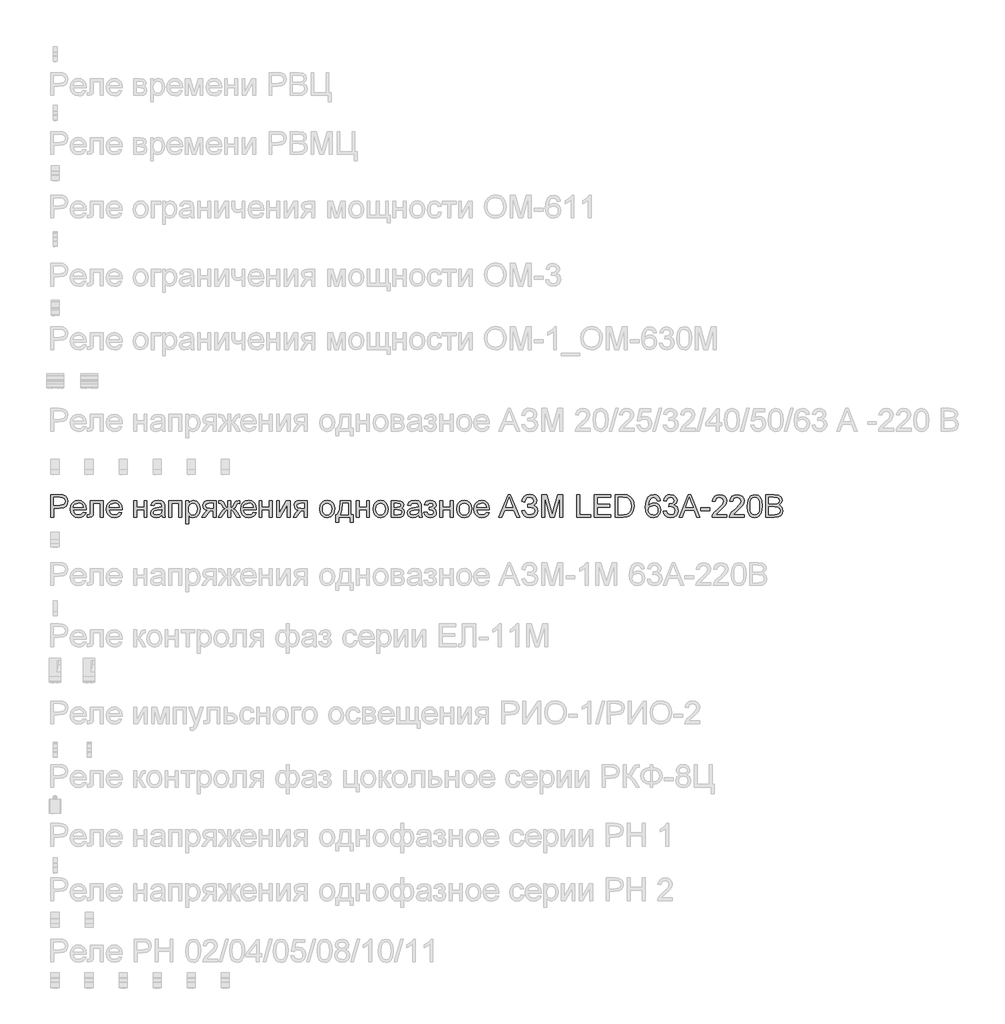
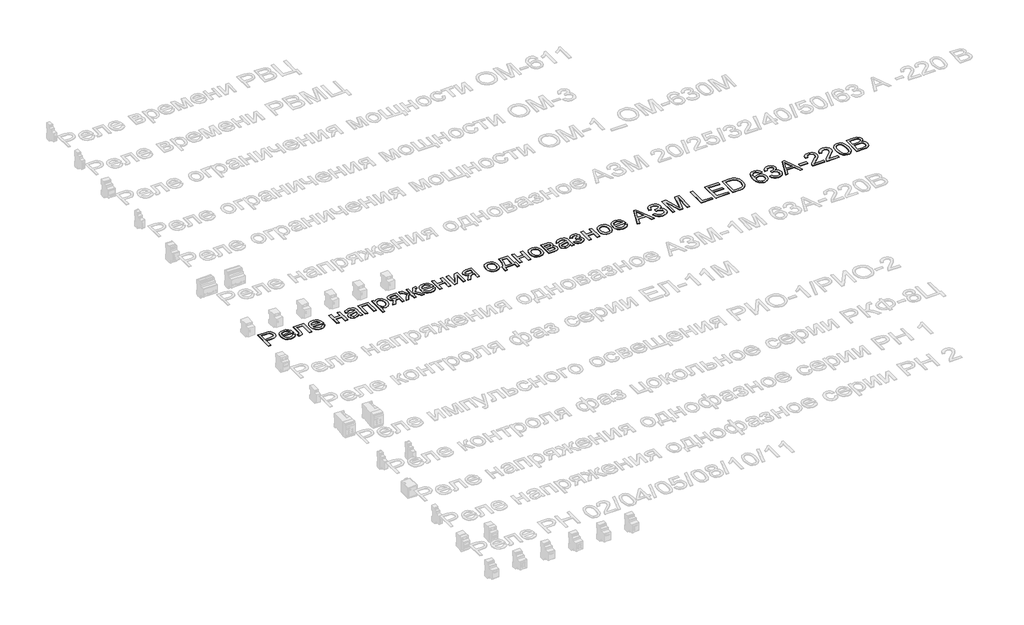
# One storey, part 12 of 34: 1 proxy.
"""IFC4 building model written with IfcOpenShell, lengths in millimetres."""

from ifc_helpers import new_model, si_unit, frame, origin, place, context, project, spatial, polyline, outline, extrude, element, save

model = new_model("IFC4")

# Units and contexts
model_context = context("Model", 3, world=origin())
ifc_project = project(units=[si_unit("LENGTHUNIT", "METRE", prefix="MILLI")], contexts=[model_context])

# Site, building, storey
site = spatial("IfcSite", under=ifc_project)
building = spatial("IfcBuilding", under=site)
storey = spatial("IfcBuildingStorey", under=building, Name="Этаж 01", Elevation=0.0)

# Proxy
placement = place(None, origin())
element("IfcBuildingElementProxy", 1, Name="Надпись на модели 1", ObjectType="Надпись на модели 1", at=placement, inside=storey, context=model_context, shape_type="SweptSolid", body=[
    extrude(outline(polyline([(-19039.0125911, 11896.235284), (-19039.0125911, 11996.6915941), (-19001.7829332, 11996.6915941), (-18986.7733478, 11995.735101), (-18974.5719283, 11991.0384742), (-18966.6624654, 11981.3263895), (-18963.6703585, 11967.6289165), (-18965.6906438, 11955.7892476), (-18971.7514996, 11945.9238788), (-18983.0853308, 11939.2652147), (-19000.9245418, 11937.04566), (-19026.4555523, 11937.04566), (-19026.4555523, 11896.235284), (-19039.0125911, 11896.235284)]), holes=[polyline([(-19026.4555523, 11949.6026988), (-19000.1887779, 11949.6026988), (-18981.6965762, 11954.2134864), (-18977.594692, 11959.7623732), (-18976.2273972, 11967.1874581), (-18979.4524961, 11977.5862559), (-18987.9260447, 11983.2761641), (-19000.4830834, 11984.1345554), (-19026.4555523, 11984.1345554), (-19026.4555523, 11949.6026988)])]), frame((0.0, 0.0, 40.0), z_axis=(0.0, 0.0, 1.0), x_axis=(1.0, 0.0, 0.0)), (0.0, 0.0, 1.0), 2.0),
    extrude(outline(polyline([(-18896.3234279, 11918.2101018), (-18884.0116438, 11916.640472), (-18888.4476875, 11907.3637143), (-18895.5263502, 11900.4291387), (-18905.0882164, 11896.1065253), (-18916.9738705, 11894.6656541), (-18931.7075445, 11897.1519233), (-18943.0444413, 11904.6107308), (-18950.2733225, 11916.5576985), (-18952.6829495, 11932.5084487), (-18950.248797, 11948.9956935), (-18942.9463394, 11961.3258717), (-18931.7627268, 11969.0146054), (-18917.6851091, 11971.5775166), (-18904.0458841, 11969.0207367), (-18893.14738, 11961.3503971), (-18886.0012722, 11949.0447444), (-18883.6192363, 11932.5820251), (-18883.6928127, 11929.1975108), (-18940.1259108, 11929.1975108), (-18937.9523413, 11919.7981258), (-18932.9031609, 11912.8880756), (-18925.6160317, 11908.6390386), (-18916.7286159, 11907.2226929), (-18904.4168318, 11909.8469178), (-18896.3234279, 11918.2101018)]), holes=[polyline([(-18940.1259108, 11941.7545495), (-18896.1762751, 11941.7545495), (-18901.2039957, 11953.1343659), (-18908.5248474, 11957.5489499), (-18917.73416, 11959.0204778), (-18933.1974665, 11954.323851), (-18938.0627059, 11948.8332123), (-18940.1259108, 11941.7545495)])]), frame((0.0, 0.0, 40.0), z_axis=(0.0, 0.0, 1.0), x_axis=(1.0, 0.0, 0.0)), (0.0, 0.0, 1.0), 2.0),
    extrude(outline(polyline([(-18864.7836782, 11970.0078868), (-18808.2770037, 11970.0078868), (-18808.2770037, 11896.3088604), (-18820.8340425, 11896.3088604), (-18820.8340425, 11957.450848), (-18852.2266394, 11957.450848), (-18852.2266394, 11922.2568038), (-18853.072768, 11906.0209451), (-18857.7203439, 11899.1660772), (-18868.7077528, 11896.235284), (-18878.9103468, 11896.8729461), (-18878.9103468, 11908.7923228), (-18873.294015, 11908.7923228), (-18867.6163695, 11909.564875), (-18865.3477639, 11912.0174216), (-18864.7836782, 11922.9680423), (-18864.7836782, 11970.0078868)])), frame((0.0, 0.0, 40.0), z_axis=(0.0, 0.0, 1.0), x_axis=(1.0, 0.0, 0.0)), (0.0, 0.0, 1.0), 2.0),
    extrude(outline(polyline([(-18737.7908134, 11918.2101018), (-18725.4790293, 11916.640472), (-18729.915073, 11907.3637143), (-18736.9937358, 11900.4291387), (-18746.555602, 11896.1065253), (-18758.4412561, 11894.6656541), (-18773.17493, 11897.1519233), (-18784.5118268, 11904.6107308), (-18791.740708, 11916.5576985), (-18794.1503351, 11932.5084487), (-18791.7161826, 11948.9956935), (-18784.4137249, 11961.3258717), (-18773.2301123, 11969.0146054), (-18759.1524946, 11971.5775166), (-18745.5132696, 11969.0207367), (-18734.6147655, 11961.3503971), (-18727.4686578, 11949.0447444), (-18725.0866219, 11932.5820251), (-18725.1601983, 11929.1975108), (-18781.5932963, 11929.1975108), (-18779.4197269, 11919.7981258), (-18774.3705465, 11912.8880756), (-18767.0834173, 11908.6390386), (-18758.1960014, 11907.2226929), (-18745.8842173, 11909.8469178), (-18737.7908134, 11918.2101018)]), holes=[polyline([(-18781.5932963, 11941.7545495), (-18737.6436606, 11941.7545495), (-18742.6713812, 11953.1343659), (-18749.9922329, 11957.5489499), (-18759.2015455, 11959.0204778), (-18774.6648521, 11954.323851), (-18779.5300915, 11948.8332123), (-18781.5932963, 11941.7545495)])]), frame((0.0, 0.0, 40.0), z_axis=(0.0, 0.0, 1.0), x_axis=(1.0, 0.0, 0.0)), (0.0, 0.0, 1.0), 2.0),
    extrude(outline(polyline([(-18673.2888369, 11970.0078868), (-18660.7317982, 11970.0078868), (-18660.7317982, 11941.7545495), (-18627.7695714, 11941.7545495), (-18627.7695714, 11970.0078868), (-18615.2125326, 11970.0078868), (-18615.2125326, 11896.235284), (-18627.7695714, 11896.235284), (-18627.7695714, 11929.1975108), (-18660.7317982, 11929.1975108), (-18660.7317982, 11896.235284), (-18673.2888369, 11896.235284), (-18673.2888369, 11970.0078868)])), frame((0.0, 0.0, 40.0), z_axis=(0.0, 0.0, 1.0), x_axis=(1.0, 0.0, 0.0)), (0.0, 0.0, 1.0), 2.0),
    extrude(outline(polyline([(-18549.2880791, 11905.6530631), (-18561.4649731, 11897.1427262), (-18574.9171914, 11894.6656541), (-18585.4110253, 11896.1555762), (-18593.1518757, 11900.6253425), (-18597.9251445, 11907.4127653), (-18599.5162342, 11915.8556571), (-18597.1127385, 11925.7884709), (-18590.7974309, 11932.998958), (-18582.0050512, 11937.1192364), (-18571.1402696, 11939.0076973), (-18549.3616555, 11943.3241794), (-18549.2880791, 11946.1200825), (-18552.7461699, 11955.3907088), (-18566.6275838, 11959.0204778), (-18579.3317754, 11956.6047194), (-18585.3895656, 11948.0330689), (-18597.9466043, 11949.6026988), (-18592.5142135, 11961.8654319), (-18581.5758555, 11969.0513936), (-18565.008903, 11971.5775166), (-18549.7908512, 11969.3456992), (-18541.1946752, 11963.7416301), (-18537.344177, 11955.2190306), (-18536.7310403, 11944.2316216), (-18536.7310403, 11928.6088996), (-18536.0933782, 11906.7934973), (-18533.5917806, 11896.235284), (-18546.1488194, 11896.235284), (-18549.2880791, 11905.6530631)]), holes=[polyline([(-18549.2880791, 11930.7671406), (-18569.5461143, 11926.9166424), (-18580.3495822, 11924.8810287), (-18585.2424128, 11921.5700907), (-18586.9591954, 11916.7385739), (-18583.2190618, 11909.9450197), (-18572.2439156, 11907.2226929), (-18559.539724, 11910.2270625), (-18551.3482183, 11917.4988633), (-18549.3616555, 11927.210948), (-18549.2880791, 11930.7671406)])]), frame((0.0, 0.0, 40.0), z_axis=(0.0, 0.0, 1.0), x_axis=(1.0, 0.0, 0.0)), (0.0, 0.0, 1.0), 2.0),
    extrude(outline(polyline([(-18519.465112, 11970.0078868), (-18462.9584376, 11970.0078868), (-18462.9584376, 11896.235284), (-18475.5154763, 11896.235284), (-18475.5154763, 11957.450848), (-18506.9080733, 11957.450848), (-18506.9080733, 11896.235284), (-18519.465112, 11896.235284), (-18519.465112, 11970.0078868)])), frame((0.0, 0.0, 40.0), z_axis=(0.0, 0.0, 1.0), x_axis=(1.0, 0.0, 0.0)), (0.0, 0.0, 1.0), 2.0),
    extrude(outline(polyline([(-18444.1228794, 11867.9819468), (-18444.1228794, 11970.0078868), (-18431.5658406, 11970.0078868), (-18431.5658406, 11957.6961027), (-18422.8838256, 11968.1071631), (-18411.1606526, 11971.5775166), (-18395.243625, 11966.7214743), (-18384.8448273, 11953.036264), (-18381.3376856, 11933.6856711), (-18385.2985484, 11913.3417968), (-18396.8009921, 11899.4849083), (-18412.6812316, 11894.6656541), (-18423.6073268, 11897.890753), (-18431.5658406, 11906.0454705), (-18431.5658406, 11867.9819468), (-18444.1228794, 11867.9819468)]), holes=[polyline([(-18431.5658406, 11932.5329742), (-18430.2077429, 11921.2757851), (-18426.1334498, 11913.4031104), (-18420.1216449, 11908.7677973), (-18412.9510117, 11907.2226929), (-18405.6638825, 11908.8229796), (-18399.4987934, 11913.6238396), (-18395.2957416, 11921.7846886), (-18393.8947243, 11933.4649419), (-18395.2620191, 11944.6608173), (-18399.3639033, 11952.6438566), (-18405.3665112, 11957.4263225), (-18412.4359769, 11959.0204778), (-18419.5330337, 11957.325155), (-18425.7655679, 11952.2391864), (-18430.1157724, 11943.9219876), (-18431.5658406, 11932.5329742)])]), frame((0.0, 0.0, 40.0), z_axis=(0.0, 0.0, 1.0), x_axis=(1.0, 0.0, 0.0)), (0.0, 0.0, 1.0), 2.0),
    extrude(outline(polyline([(-18310.7043425, 11970.0078868), (-18310.7043425, 11896.235284), (-18323.2613813, 11896.235284), (-18323.2613813, 11924.4886212), (-18330.1039864, 11924.4886212), (-18339.4236636, 11922.8944659), (-18348.1792551, 11912.1768371), (-18358.1856453, 11896.235284), (-18372.7047214, 11896.235284), (-18360.0986317, 11916.3952173), (-18349.4055284, 11926.843066), (-18357.9894416, 11929.4734223), (-18364.0227063, 11934.470486), (-18368.7806468, 11948.6952565), (-18367.1558347, 11957.2914325), (-18362.2813982, 11964.0972494), (-18354.3290158, 11968.5302274), (-18343.4703655, 11970.0078868), (-18310.7043425, 11970.0078868)]), holes=[polyline([(-18323.2613813, 11957.450848), (-18339.816071, 11957.450848), (-18353.2192384, 11954.5445802), (-18356.223608, 11947.7387633), (-18351.7967614, 11939.6330967), (-18336.1127256, 11937.04566), (-18323.2613813, 11937.04566), (-18323.2613813, 11957.450848)])]), frame((0.0, 0.0, 40.0), z_axis=(0.0, 0.0, 1.0), x_axis=(1.0, 0.0, 0.0)), (0.0, 0.0, 1.0), 2.0),
    extrude(outline(polyline([(-18246.3495188, 11970.0078868), (-18246.3495188, 11938.6152898), (-18239.0286671, 11941.2027265), (-18232.1002229, 11954.6304194), (-18223.8351407, 11967.5062892), (-18212.0874423, 11970.0078868), (-18207.1087727, 11970.0078868), (-18207.1087727, 11957.3772716), (-18210.5668634, 11957.450848), (-18217.0415865, 11956.1509983), (-18221.5297469, 11948.0085434), (-18226.7414085, 11939.0812737), (-18234.1848875, 11934.5440624), (-18225.9749876, 11929.6573633), (-18217.9735542, 11919.3627988), (-18203.969513, 11896.235284), (-18218.3659617, 11896.235284), (-18232.1492738, 11919.0439677), (-18239.1758199, 11928.5230604), (-18246.3495188, 11930.7671406), (-18246.3495188, 11896.235284), (-18258.9065576, 11896.235284), (-18258.9065576, 11930.7671406), (-18266.055731, 11928.5721114), (-18273.1313281, 11919.0930186), (-18286.9146401, 11896.235284), (-18301.2865634, 11896.235284), (-18287.3315731, 11919.3627988), (-18279.268826, 11929.6573633), (-18271.0221379, 11934.5440624), (-18278.9193381, 11939.5472576), (-18285.6883668, 11952.4231274), (-18288.9993048, 11956.6660331), (-18294.4194328, 11957.5244244), (-18298.1473037, 11957.450848), (-18298.1473037, 11970.0078868), (-18296.2588428, 11970.0078868), (-18285.2469084, 11969.2230718), (-18279.5324748, 11965.8876084), (-18273.1313281, 11954.6304194), (-18266.2764602, 11941.2885657), (-18258.9065576, 11938.6152898), (-18258.9065576, 11970.0078868), (-18246.3495188, 11970.0078868)])), frame((0.0, 0.0, 40.0), z_axis=(0.0, 0.0, 1.0), x_axis=(1.0, 0.0, 0.0)), (0.0, 0.0, 1.0), 2.0),
    extrude(outline(polyline([(-18146.0403615, 11918.2101018), (-18133.7285773, 11916.640472), (-18138.1646211, 11907.3637143), (-18145.2432838, 11900.4291387), (-18154.80515, 11896.1065253), (-18166.6908041, 11894.6656541), (-18181.424478, 11897.1519233), (-18192.7613748, 11904.6107308), (-18199.990256, 11916.5576985), (-18202.3998831, 11932.5084487), (-18199.9657306, 11948.9956935), (-18192.663273, 11961.3258717), (-18181.4796603, 11969.0146054), (-18167.4020426, 11971.5775166), (-18153.7628177, 11969.0207367), (-18142.8643136, 11961.3503971), (-18135.7182058, 11949.0447444), (-18133.3361699, 11932.5820251), (-18133.4097463, 11929.1975108), (-18189.8428443, 11929.1975108), (-18187.6692749, 11919.7981258), (-18182.6200945, 11912.8880756), (-18175.3329653, 11908.6390386), (-18166.4455495, 11907.2226929), (-18154.1337653, 11909.8469178), (-18146.0403615, 11918.2101018)]), holes=[polyline([(-18189.8428443, 11941.7545495), (-18145.8932087, 11941.7545495), (-18150.9209293, 11953.1343659), (-18158.241781, 11957.5489499), (-18167.4510936, 11959.0204778), (-18182.9144001, 11954.323851), (-18187.7796395, 11948.8332123), (-18189.8428443, 11941.7545495)])]), frame((0.0, 0.0, 40.0), z_axis=(0.0, 0.0, 1.0), x_axis=(1.0, 0.0, 0.0)), (0.0, 0.0, 1.0), 2.0),
    extrude(outline(polyline([(-18120.7791311, 11970.0078868), (-18108.2220923, 11970.0078868), (-18108.2220923, 11941.7545495), (-18075.2598656, 11941.7545495), (-18075.2598656, 11970.0078868), (-18062.7028268, 11970.0078868), (-18062.7028268, 11896.235284), (-18075.2598656, 11896.235284), (-18075.2598656, 11929.1975108), (-18108.2220923, 11929.1975108), (-18108.2220923, 11896.235284), (-18120.7791311, 11896.235284), (-18120.7791311, 11970.0078868)])), frame((0.0, 0.0, 40.0), z_axis=(0.0, 0.0, 1.0), x_axis=(1.0, 0.0, 0.0)), (0.0, 0.0, 1.0), 2.0),
    extrude(outline(polyline([(-18043.8672687, 11970.0078868), (-18031.3102299, 11970.0078868), (-18031.3102299, 11913.746467), (-18000.4571932, 11970.0078868), (-17984.2213345, 11970.0078868), (-17984.2213345, 11896.235284), (-17996.7783733, 11896.235284), (-17996.7783733, 11952.1533473), (-18027.4352062, 11896.235284), (-18043.8672687, 11896.235284), (-18043.8672687, 11970.0078868)])), frame((0.0, 0.0, 40.0), z_axis=(0.0, 0.0, 1.0), x_axis=(1.0, 0.0, 0.0)), (0.0, 0.0, 1.0), 2.0),
    extrude(outline(polyline([(-17908.8791019, 11970.0078868), (-17908.8791019, 11896.235284), (-17921.4361407, 11896.235284), (-17921.4361407, 11924.4886212), (-17928.2787458, 11924.4886212), (-17937.598423, 11922.8944659), (-17946.3540145, 11912.1768371), (-17956.3604047, 11896.235284), (-17970.8794808, 11896.235284), (-17958.2733911, 11916.3952173), (-17947.5802878, 11926.843066), (-17956.164201, 11929.4734223), (-17962.1974657, 11934.470486), (-17966.9554062, 11948.6952565), (-17965.3305941, 11957.2914325), (-17960.4561576, 11964.0972494), (-17952.5037752, 11968.5302274), (-17941.6451249, 11970.0078868), (-17908.8791019, 11970.0078868)]), holes=[polyline([(-17921.4361407, 11957.450848), (-17937.9908304, 11957.450848), (-17951.3939978, 11954.5445802), (-17954.3983674, 11947.7387633), (-17949.9715208, 11939.6330967), (-17934.287485, 11937.04566), (-17921.4361407, 11937.04566), (-17921.4361407, 11957.450848)])]), frame((0.0, 0.0, 40.0), z_axis=(0.0, 0.0, 1.0), x_axis=(1.0, 0.0, 0.0)), (0.0, 0.0, 1.0), 2.0),
    extrude(outline(polyline([(-17853.9420573, 11933.1215854), (-17851.2258619, 11950.9086798), (-17843.0772757, 11963.4105363), (-17833.0095718, 11969.5357715), (-17820.955305, 11971.5775166), (-17807.7636698, 11969.0912475), (-17797.2269164, 11961.63244), (-17790.3199319, 11949.7897054), (-17788.0176037, 11934.151655), (-17792.0888312, 11911.8089551), (-17803.9468941, 11899.1660772), (-17820.955305, 11894.6656541), (-17834.3063558, 11897.1427262), (-17844.8308465, 11904.5739426), (-17851.6642546, 11916.6649975), (-17853.9420573, 11933.1215854)]), holes=[polyline([(-17841.3850185, 11933.1461108), (-17839.9318846, 11921.7816229), (-17835.572483, 11913.6851533), (-17829.0119207, 11908.838308), (-17820.955305, 11907.2226929), (-17812.9354776, 11908.8475051), (-17806.387178, 11913.7219415), (-17802.0277764, 11921.92571), (-17800.5746425, 11933.5385183), (-17802.0369734, 11944.5719125), (-17806.4239662, 11952.5580175), (-17812.9814628, 11957.4048627), (-17820.955305, 11959.0204778), (-17829.0119207, 11957.4109941), (-17835.572483, 11952.5825429), (-17839.9318846, 11944.5044674), (-17841.3850185, 11933.1461108)])]), frame((0.0, 0.0, 40.0), z_axis=(0.0, 0.0, 1.0), x_axis=(1.0, 0.0, 0.0)), (0.0, 0.0, 1.0), 2.0),
    extrude(outline(polyline([(-17762.9035262, 11970.0078868), (-17715.8146308, 11970.0078868), (-17715.8146308, 11908.7923228), (-17706.3968517, 11908.7923228), (-17706.3968517, 11875.830096), (-17718.9538905, 11875.830096), (-17718.9538905, 11896.235284), (-17770.7516754, 11896.235284), (-17770.7516754, 11875.830096), (-17783.3087142, 11875.830096), (-17783.3087142, 11908.7923228), (-17775.460565, 11908.7923228), (-17765.760743, 11932.7414406), (-17762.9035262, 11970.0078868)]), holes=[polyline([(-17751.9161173, 11957.450848), (-17754.8591732, 11928.8418915), (-17761.3338964, 11908.7923228), (-17728.3716696, 11908.7923228), (-17728.3716696, 11957.450848), (-17751.9161173, 11957.450848)])]), frame((0.0, 0.0, 40.0), z_axis=(0.0, 0.0, 1.0), x_axis=(1.0, 0.0, 0.0)), (0.0, 0.0, 1.0), 2.0),
    extrude(outline(polyline([(-17692.2701831, 11970.0078868), (-17679.7131444, 11970.0078868), (-17679.7131444, 11941.7545495), (-17646.7509176, 11941.7545495), (-17646.7509176, 11970.0078868), (-17634.1938788, 11970.0078868), (-17634.1938788, 11896.235284), (-17646.7509176, 11896.235284), (-17646.7509176, 11929.1975108), (-17679.7131444, 11929.1975108), (-17679.7131444, 11896.235284), (-17692.2701831, 11896.235284), (-17692.2701831, 11970.0078868)])), frame((0.0, 0.0, 40.0), z_axis=(0.0, 0.0, 1.0), x_axis=(1.0, 0.0, 0.0)), (0.0, 0.0, 1.0), 2.0),
    extrude(outline(polyline([(-17618.4975804, 11933.1215854), (-17615.781385, 11950.9086798), (-17607.6327988, 11963.4105363), (-17597.5650948, 11969.5357715), (-17585.5108281, 11971.5775166), (-17572.3191929, 11969.0912475), (-17561.7824394, 11961.63244), (-17554.875455, 11949.7897054), (-17552.5731268, 11934.151655), (-17556.6443542, 11911.8089551), (-17568.5024172, 11899.1660772), (-17585.5108281, 11894.6656541), (-17598.8618789, 11897.1427262), (-17609.3863696, 11904.5739426), (-17616.2197777, 11916.6649975), (-17618.4975804, 11933.1215854)]), holes=[polyline([(-17605.9405416, 11933.1461108), (-17604.4874077, 11921.7816229), (-17600.1280061, 11913.6851533), (-17593.5674438, 11908.838308), (-17585.5108281, 11907.2226929), (-17577.4910006, 11908.8475051), (-17570.9427011, 11913.7219415), (-17566.5832995, 11921.92571), (-17565.1301656, 11933.5385183), (-17566.5924965, 11944.5719125), (-17570.9794893, 11952.5580175), (-17577.5369859, 11957.4048627), (-17585.5108281, 11959.0204778), (-17593.5674438, 11957.4109941), (-17600.1280061, 11952.5825429), (-17604.4874077, 11944.5044674), (-17605.9405416, 11933.1461108)])]), frame((0.0, 0.0, 40.0), z_axis=(0.0, 0.0, 1.0), x_axis=(1.0, 0.0, 0.0)), (0.0, 0.0, 1.0), 2.0),
    extrude(outline(polyline([(-17538.4464582, 11970.0078868), (-17510.7817322, 11970.0078868), (-17495.6127312, 11968.3278923), (-17487.077869, 11962.1720003), (-17483.5094136, 11951.4421087), (-17485.6676546, 11942.7233055), (-17492.1669032, 11936.5060997), (-17483.7301428, 11929.7002828), (-17480.3701539, 11917.8667453), (-17482.4977381, 11908.2956821), (-17487.5561156, 11901.5573102), (-17495.5636803, 11897.5657905), (-17506.5388265, 11896.235284), (-17538.4464582, 11896.235284), (-17538.4464582, 11970.0078868)]), holes=[polyline([(-17525.8894194, 11941.7545495), (-17513.4795335, 11941.7545495), (-17503.2401513, 11942.3922117), (-17498.2614816, 11944.9428602), (-17496.0664524, 11949.5536478), (-17499.9169506, 11955.7095399), (-17513.087126, 11957.450848), (-17525.8894194, 11957.450848), (-17525.8894194, 11941.7545495)]), polyline([(-17525.8894194, 11908.7923228), (-17510.4874266, 11908.7923228), (-17496.8267418, 11911.0609284), (-17492.9271927, 11918.8968149), (-17495.073171, 11924.9423424), (-17500.6649773, 11928.4617468), (-17511.7136999, 11929.1975108), (-17525.8894194, 11929.1975108), (-17525.8894194, 11908.7923228)])]), frame((0.0, 0.0, 40.0), z_axis=(0.0, 0.0, 1.0), x_axis=(1.0, 0.0, 0.0)), (0.0, 0.0, 1.0), 2.0),
    extrude(outline(polyline([(-17417.5849601, 11905.6530631), (-17429.7618541, 11897.1427262), (-17443.2140724, 11894.6656541), (-17453.7079063, 11896.1555762), (-17461.4487566, 11900.6253425), (-17466.2220255, 11907.4127653), (-17467.8131151, 11915.8556571), (-17465.4096194, 11925.7884709), (-17459.0943119, 11932.998958), (-17450.3019322, 11937.1192364), (-17439.4371506, 11939.0076973), (-17417.6585365, 11943.3241794), (-17417.5849601, 11946.1200825), (-17421.0430508, 11955.3907088), (-17434.9244648, 11959.0204778), (-17447.6286563, 11956.6047194), (-17453.6864465, 11948.0330689), (-17466.2434853, 11949.6026988), (-17460.8110945, 11961.8654319), (-17449.8727365, 11969.0513936), (-17433.305784, 11971.5775166), (-17418.0877321, 11969.3456992), (-17409.4915562, 11963.7416301), (-17405.641058, 11955.2190306), (-17405.0279213, 11944.2316216), (-17405.0279213, 11928.6088996), (-17404.3902592, 11906.7934973), (-17401.8886616, 11896.235284), (-17414.4457004, 11896.235284), (-17417.5849601, 11905.6530631)]), holes=[polyline([(-17417.5849601, 11930.7671406), (-17437.8429953, 11926.9166424), (-17448.6464632, 11924.8810287), (-17453.5392937, 11921.5700907), (-17455.2560764, 11916.7385739), (-17451.5159428, 11909.9450197), (-17440.5407966, 11907.2226929), (-17427.836605, 11910.2270625), (-17419.6450992, 11917.4988633), (-17417.6585365, 11927.210948), (-17417.5849601, 11930.7671406)])]), frame((0.0, 0.0, 40.0), z_axis=(0.0, 0.0, 1.0), x_axis=(1.0, 0.0, 0.0)), (0.0, 0.0, 1.0), 2.0),
    extrude(outline(polyline([(-17370.4960647, 11929.1975108), (-17370.4960647, 11941.7545495), (-17360.5877763, 11942.2450589), (-17355.5845811, 11944.857021), (-17353.2301364, 11950.3139373), (-17356.3816588, 11956.6537703), (-17364.5118509, 11959.0204778), (-17372.9118231, 11956.6660331), (-17378.3442139, 11949.6026988), (-17392.4708825, 11951.1723286), (-17383.028578, 11966.4762196), (-17365.7871751, 11971.5775166), (-17355.2902756, 11970.0232152), (-17347.3440245, 11965.3603109), (-17342.3408293, 11958.5391656), (-17340.6730976, 11950.510141), (-17343.0459365, 11942.7110427), (-17350.1644531, 11936.677778), (-17341.8625827, 11928.8541542), (-17339.1034678, 11917.5969652), (-17340.8539729, 11908.3539301), (-17346.1054884, 11901.0300127), (-17354.5023949, 11896.2567438), (-17365.6890733, 11894.6656541), (-17376.630497, 11896.1371821), (-17385.002878, 11900.5517661), (-17390.8062165, 11907.909406), (-17394.0405124, 11918.2101018), (-17379.9138438, 11919.7797317), (-17374.248461, 11910.5091054), (-17364.4873254, 11907.2226929), (-17355.314801, 11910.3742153), (-17351.6605065, 11918.430831), (-17353.9291122, 11925.0281815), (-17358.760629, 11928.5598486), (-17368.0435181, 11929.2710872), (-17370.4960647, 11929.1975108)])), frame((0.0, 0.0, 40.0), z_axis=(0.0, 0.0, 1.0), x_axis=(1.0, 0.0, 0.0)), (0.0, 0.0, 1.0), 2.0),
    extrude(outline(polyline([(-17323.4071693, 11970.0078868), (-17310.8501305, 11970.0078868), (-17310.8501305, 11941.7545495), (-17277.8879038, 11941.7545495), (-17277.8879038, 11970.0078868), (-17265.330865, 11970.0078868), (-17265.330865, 11896.235284), (-17277.8879038, 11896.235284), (-17277.8879038, 11929.1975108), (-17310.8501305, 11929.1975108), (-17310.8501305, 11896.235284), (-17323.4071693, 11896.235284), (-17323.4071693, 11970.0078868)])), frame((0.0, 0.0, 40.0), z_axis=(0.0, 0.0, 1.0), x_axis=(1.0, 0.0, 0.0)), (0.0, 0.0, 1.0), 2.0),
    extrude(outline(polyline([(-17249.6345665, 11933.1215854), (-17246.9183711, 11950.9086798), (-17238.7697849, 11963.4105363), (-17228.702081, 11969.5357715), (-17216.6478143, 11971.5775166), (-17203.4561791, 11969.0912475), (-17192.9194256, 11961.63244), (-17186.0124412, 11949.7897054), (-17183.710113, 11934.151655), (-17187.7813404, 11911.8089551), (-17199.6394034, 11899.1660772), (-17216.6478143, 11894.6656541), (-17229.998865, 11897.1427262), (-17240.5233558, 11904.5739426), (-17247.3567639, 11916.6649975), (-17249.6345665, 11933.1215854)]), holes=[polyline([(-17237.0775278, 11933.1461108), (-17235.6243939, 11921.7816229), (-17231.2649922, 11913.6851533), (-17224.70443, 11908.838308), (-17216.6478143, 11907.2226929), (-17208.6279868, 11908.8475051), (-17202.0796873, 11913.7219415), (-17197.7202857, 11921.92571), (-17196.2671518, 11933.5385183), (-17197.7294827, 11944.5719125), (-17202.1164755, 11952.5580175), (-17208.6739721, 11957.4048627), (-17216.6478143, 11959.0204778), (-17224.70443, 11957.4109941), (-17231.2649922, 11952.5825429), (-17235.6243939, 11944.5044674), (-17237.0775278, 11933.1461108)])]), frame((0.0, 0.0, 40.0), z_axis=(0.0, 0.0, 1.0), x_axis=(1.0, 0.0, 0.0)), (0.0, 0.0, 1.0), 2.0),
    extrude(outline(polyline([(-17117.9328123, 11918.2101018), (-17105.6210282, 11916.640472), (-17110.0570719, 11907.3637143), (-17117.1357346, 11900.4291387), (-17126.6976008, 11896.1065253), (-17138.5832549, 11894.6656541), (-17153.3169288, 11897.1519233), (-17164.6538257, 11904.6107308), (-17171.8827069, 11916.5576985), (-17174.2923339, 11932.5084487), (-17171.8581814, 11948.9956935), (-17164.5557238, 11961.3258717), (-17153.3721111, 11969.0146054), (-17139.2944935, 11971.5775166), (-17125.6552685, 11969.0207367), (-17114.7567644, 11961.3503971), (-17107.6106566, 11949.0447444), (-17105.2286207, 11932.5820251), (-17105.3021971, 11929.1975108), (-17161.7352952, 11929.1975108), (-17159.5617257, 11919.7981258), (-17154.5125453, 11912.8880756), (-17147.2254161, 11908.6390386), (-17138.3380003, 11907.2226929), (-17126.0262162, 11909.8469178), (-17117.9328123, 11918.2101018)]), holes=[polyline([(-17161.7352952, 11941.7545495), (-17117.7856595, 11941.7545495), (-17122.8133801, 11953.1343659), (-17130.1342318, 11957.5489499), (-17139.3435444, 11959.0204778), (-17154.8068509, 11954.323851), (-17159.6720903, 11948.8332123), (-17161.7352952, 11941.7545495)])]), frame((0.0, 0.0, 40.0), z_axis=(0.0, 0.0, 1.0), x_axis=(1.0, 0.0, 0.0)), (0.0, 0.0, 1.0), 2.0),
    extrude(outline(polyline([(-17063.5598534, 11896.235284), (-17023.4607159, 11996.6915941), (-17012.7676126, 11996.6915941), (-16972.6684751, 11896.235284), (-16985.9367524, 11896.235284), (-16997.4391961, 11927.6278809), (-17038.8136578, 11927.6278809), (-17050.2915761, 11896.235284), (-17063.5598534, 11896.235284)]), holes=[polyline([(-17034.2028702, 11940.1849197), (-17002.0254583, 11940.1849197), (-17011.0753554, 11964.8820643), (-17018.1141642, 11984.1345554), (-17024.3681582, 11967.0403053), (-17034.2028702, 11940.1849197)])]), frame((0.0, 0.0, 40.0), z_axis=(0.0, 0.0, 1.0), x_axis=(1.0, 0.0, 0.0)), (0.0, 0.0, 1.0), 2.0),
    extrude(outline(polyline([(-16963.9619345, 11924.4886212), (-16951.4048958, 11927.6278809), (-16943.6916366, 11914.0285098), (-16936.4045074, 11908.9241471), (-16927.0756332, 11907.2226929), (-16910.4105788, 11912.3362526), (-16905.839645, 11917.9801756), (-16904.3160004, 11924.684825), (-16905.9806664, 11931.7083054), (-16910.9746645, 11937.1314991), (-16929.1112469, 11941.7545495), (-16935.7085973, 11941.7545495), (-16935.7085973, 11954.3115883), (-16921.4960896, 11955.3293952), (-16912.8018118, 11960.528794), (-16909.0248899, 11970.0324122), (-16914.0526105, 11981.0320839), (-16927.6642444, 11985.7041852), (-16940.4788005, 11982.1112044), (-16947.811915, 11972.5830607), (-16949.8352659, 11963.7293674), (-16962.3923047, 11966.8686271), (-16958.4912227, 11980.6028882), (-16951.4232899, 11990.4130748), (-16941.1885062, 11996.2991867), (-16927.7868717, 11998.261224), (-16914.8588852, 11996.2225446), (-16904.9168743, 11990.1065064), (-16898.580107, 11981.2620101), (-16896.4678512, 11971.0379563), (-16899.7542637, 11958.6096763), (-16909.6135011, 11949.3329186), (-16896.8847841, 11940.6876917), (-16891.7589616, 11925.0527069), (-16894.2176396, 11913.1609215), (-16901.5936736, 11903.3844574), (-16913.0286723, 11896.845355), (-16927.6642444, 11894.6656541), (-16940.3990928, 11896.5295896), (-16950.6936573, 11902.1213959), (-16958.5479379, 11911.4410731), (-16963.9619345, 11924.4886212)])), frame((0.0, 0.0, 40.0), z_axis=(0.0, 0.0, 1.0), x_axis=(1.0, 0.0, 0.0)), (0.0, 0.0, 1.0), 2.0),
    extrude(outline(polyline([(-16874.4930333, 11896.235284), (-16874.4930333, 11996.6915941), (-16852.8860975, 11996.6915941), (-16832.3337567, 11925.8865728), (-16828.1889529, 11911.0977166), (-16823.7007925, 11927.1128461), (-16803.4918083, 11996.6915941), (-16781.8848724, 11996.6915941), (-16781.8848724, 11896.235284), (-16794.4419112, 11896.235284), (-16794.4419112, 11984.1345554), (-16819.678616, 11896.235284), (-16836.6992897, 11896.235284), (-16861.9359946, 11984.1345554), (-16861.9359946, 11896.235284), (-16874.4930333, 11896.235284)])), frame((0.0, 0.0, 40.0), z_axis=(0.0, 0.0, 1.0), x_axis=(1.0, 0.0, 0.0)), (0.0, 0.0, 1.0), 2.0),
    extrude(outline(polyline([(-16720.6693084, 11896.235284), (-16720.6693084, 11996.6915941), (-16708.1122696, 11996.6915941), (-16708.1122696, 11908.7923228), (-16657.8841146, 11908.7923228), (-16657.8841146, 11896.235284), (-16720.6693084, 11896.235284)])), frame((0.0, 0.0, 40.0), z_axis=(0.0, 0.0, 1.0), x_axis=(1.0, 0.0, 0.0)), (0.0, 0.0, 1.0), 2.0),
    extrude(outline(polyline([(-16643.7574459, 11896.235284), (-16643.7574459, 11996.6915941), (-16571.554473, 11996.6915941), (-16571.554473, 11984.1345554), (-16631.2004072, 11984.1345554), (-16631.2004072, 11954.3115883), (-16574.6937327, 11954.3115883), (-16574.6937327, 11941.7545495), (-16631.2004072, 11941.7545495), (-16631.2004072, 11908.7923228), (-16569.9848432, 11908.7923228), (-16569.9848432, 11896.235284), (-16643.7574459, 11896.235284)])), frame((0.0, 0.0, 40.0), z_axis=(0.0, 0.0, 1.0), x_axis=(1.0, 0.0, 0.0)), (0.0, 0.0, 1.0), 2.0),
    extrude(outline(polyline([(-16551.149285, 11896.235284), (-16551.149285, 11996.6915941), (-16516.4948011, 11996.6915941), (-16498.5666852, 11995.2445916), (-16483.8023544, 11988.05863), (-16471.9075033, 11970.8908035), (-16467.9589032, 11947.0029993), (-16470.632179, 11926.7327014), (-16477.4993096, 11912.1032607), (-16486.671834, 11902.99205), (-16498.6770498, 11897.9520666), (-16514.8270694, 11896.235284), (-16551.149285, 11896.235284)]), holes=[polyline([(-16538.5922463, 11908.7923228), (-16516.3721738, 11908.7923228), (-16500.2098914, 11910.6072073), (-16490.8902142, 11915.7330297), (-16483.2505315, 11928.2042294), (-16480.515942, 11947.1992031), (-16481.8556456, 11960.8844133), (-16485.8747564, 11970.9889054), (-16498.9100417, 11982.1234671), (-16516.7155303, 11984.1345554), (-16538.5922463, 11984.1345554), (-16538.5922463, 11908.7923228)])]), frame((0.0, 0.0, 40.0), z_axis=(0.0, 0.0, 1.0), x_axis=(1.0, 0.0, 0.0)), (0.0, 0.0, 1.0), 2.0),
    extrude(outline(polyline([(-16351.8062946, 11970.0078868), (-16364.3633333, 11968.4382569), (-16369.1212738, 11978.910631), (-16381.7028381, 11984.1345554), (-16393.0336035, 11981.0933975), (-16401.605254, 11969.676793), (-16405.1737093, 11947.2973049), (-16394.1004613, 11957.3159579), (-16380.3784629, 11960.5901077), (-16368.7779173, 11958.3521589), (-16359.0413071, 11951.6383125), (-16352.4378253, 11941.3805362), (-16350.2366647, 11928.5107977), (-16354.3814685, 11911.1835557), (-16365.7858104, 11898.9208226), (-16382.2423983, 11894.6656541), (-16396.4886286, 11897.4860828), (-16407.8347224, 11905.9473687), (-16415.2567417, 11920.8833777), (-16417.7307481, 11943.1279756), (-16414.9838959, 11968.13782), (-16406.7433392, 11985.2382014), (-16395.4922815, 11993.8282459), (-16380.9180231, 11996.6915941), (-16369.8999574, 11994.9196292), (-16361.0769209, 11989.6037344), (-16354.8965033, 11981.1608426), (-16351.8062946, 11970.0078868)]), holes=[polyline([(-16405.1737093, 11928.7070014), (-16402.2674416, 11917.8299571), (-16394.5419197, 11909.9327569), (-16383.223417, 11907.2226929), (-16374.936875, 11908.6267759), (-16368.422298, 11912.8390247), (-16364.2008521, 11919.4609006), (-16362.7937035, 11928.0938648), (-16364.182458, 11936.3804067), (-16368.3487216, 11942.69878), (-16374.9736632, 11946.6994967), (-16383.7384518, 11948.0330689), (-16398.9319782, 11942.69878), (-16403.6132765, 11936.5336909), (-16405.1737093, 11928.7070014)])]), frame((0.0, 0.0, 40.0), z_axis=(0.0, 0.0, 1.0), x_axis=(1.0, 0.0, 0.0)), (0.0, 0.0, 1.0), 2.0),
    extrude(outline(polyline([(-16339.2492558, 11922.9189914), (-16326.692217, 11924.4886212), (-16319.7637728, 11911.2693949), (-16306.8020638, 11907.2226929), (-16298.1936251, 11908.6145131), (-16291.5472238, 11912.7899738), (-16285.881841, 11926.5732859), (-16291.4981728, 11939.5595203), (-16305.7719942, 11944.6976055), (-16314.5766367, 11943.3241794), (-16313.1786851, 11955.8812181), (-16311.1675968, 11955.7340653), (-16296.9183009, 11959.3393089), (-16292.1726232, 11963.9133084), (-16290.5907306, 11970.4248197), (-16295.1769928, 11980.247269), (-16306.9982676, 11984.1345554), (-16318.9666951, 11980.2104808), (-16325.1225872, 11968.4382569), (-16337.679626, 11970.0078868), (-16333.9824119, 11981.2834699), (-16327.4034556, 11989.7018362), (-16318.4026094, 11994.9441547), (-16307.439726, 11996.6915941), (-16292.2952505, 11993.2457661), (-16281.700249, 11983.827987), (-16278.0336918, 11971.1605837), (-16281.516308, 11959.5845636), (-16291.8170039, 11951.2704305), (-16278.1317937, 11942.6865173), (-16273.3248023, 11926.3525567), (-16275.728298, 11914.114349), (-16282.9387851, 11903.8872295), (-16293.8219608, 11896.971048), (-16307.2435222, 11894.6656541), (-16319.3836281, 11896.6338228), (-16329.267391, 11902.5383288), (-16336.1406529, 11911.5698318), (-16339.2492558, 11922.9189914)])), frame((0.0, 0.0, 40.0), z_axis=(0.0, 0.0, 1.0), x_axis=(1.0, 0.0, 0.0)), (0.0, 0.0, 1.0), 2.0),
    extrude(outline(polyline([(-16269.3271513, 11896.235284), (-16229.2280138, 11996.6915941), (-16218.5349105, 11996.6915941), (-16178.435773, 11896.235284), (-16191.7040503, 11896.235284), (-16203.206494, 11927.6278809), (-16244.5809557, 11927.6278809), (-16256.058874, 11896.235284), (-16269.3271513, 11896.235284)]), holes=[polyline([(-16239.970168, 11940.1849197), (-16207.7927562, 11940.1849197), (-16216.8426533, 11964.8820643), (-16223.8814621, 11984.1345554), (-16230.135456, 11967.0403053), (-16239.970168, 11940.1849197)])]), frame((0.0, 0.0, 40.0), z_axis=(0.0, 0.0, 1.0), x_axis=(1.0, 0.0, 0.0)), (0.0, 0.0, 1.0), 2.0),
    extrude(outline(polyline([(-16172.8684921, 11926.0582511), (-16172.8684921, 11938.6152898), (-16133.627746, 11938.6152898), (-16133.627746, 11926.0582511), (-16172.8684921, 11926.0582511)])), frame((0.0, 0.0, 40.0), z_axis=(0.0, 0.0, 1.0), x_axis=(1.0, 0.0, 0.0)), (0.0, 0.0, 1.0), 2.0),
    extrude(outline(polyline([(-16058.2855134, 11908.7923228), (-16058.2855134, 11896.235284), (-16124.2099669, 11896.235284), (-16122.8610662, 11904.8927736), (-16115.2336462, 11918.2223646), (-16099.5128223, 11932.7782288), (-16077.83231, 11953.6984516), (-16072.412182, 11967.9232221), (-16077.5257417, 11979.4379286), (-16090.8798581, 11984.1345554), (-16104.7980603, 11979.5482932), (-16110.0832983, 11966.8686271), (-16122.640337, 11968.4382569), (-16119.5961135, 11980.5844941), (-16113.0140915, 11989.4565816), (-16103.2376275, 11994.882841), (-16090.610078, 11996.6915941), (-16077.890558, 11994.6805059), (-16068.1324881, 11988.6472412), (-16061.9244794, 11979.6341323), (-16059.8551432, 11968.6835116), (-16062.0869606, 11956.7763977), (-16069.5059142, 11944.4646136), (-16087.4953438, 11927.2599989), (-16101.9408435, 11915.1812067), (-16107.6062262, 11908.7923228), (-16058.2855134, 11908.7923228)])), frame((0.0, 0.0, 40.0), z_axis=(0.0, 0.0, 1.0), x_axis=(1.0, 0.0, 0.0)), (0.0, 0.0, 1.0), 2.0),
    extrude(outline(polyline([(-15981.3736509, 11908.7923228), (-15981.3736509, 11896.235284), (-16047.2981044, 11896.235284), (-16045.9492038, 11904.8927736), (-16038.3217838, 11918.2223646), (-16022.6009598, 11932.7782288), (-16000.9204476, 11953.6984516), (-15995.5003195, 11967.9232221), (-16000.6138792, 11979.4379286), (-16013.9679957, 11984.1345554), (-16027.8861978, 11979.5482932), (-16033.1714358, 11966.8686271), (-16045.7284746, 11968.4382569), (-16042.6842511, 11980.5844941), (-16036.102229, 11989.4565816), (-16026.325765, 11994.882841), (-16013.6982155, 11996.6915941), (-16000.9786956, 11994.6805059), (-15991.2206256, 11988.6472412), (-15985.012617, 11979.6341323), (-15982.9432807, 11968.6835116), (-15985.1750982, 11956.7763977), (-15992.5940518, 11944.4646136), (-16010.5834813, 11927.2599989), (-16025.028981, 11915.1812067), (-16030.6943637, 11908.7923228), (-15981.3736509, 11908.7923228)])), frame((0.0, 0.0, 40.0), z_axis=(0.0, 0.0, 1.0), x_axis=(1.0, 0.0, 0.0)), (0.0, 0.0, 1.0), 2.0),
    extrude(outline(polyline([(-15968.8166121, 11945.6540987), (-15965.1255294, 11974.5573608), (-15954.162646, 11991.2224151), (-15935.8543854, 11996.6915941), (-15921.1881565, 11993.4542326), (-15911.0591389, 11984.1222926), (-15905.173027, 11969.25986), (-15902.8921586, 11945.6540987), (-15906.5464531, 11916.8734639), (-15917.4725483, 11900.1716213), (-15925.703908, 11896.0421459), (-15935.8543854, 11894.6656541), (-15948.9019335, 11897.0568871), (-15958.8102219, 11904.230586), (-15966.3150146, 11921.2206028), (-15968.8166121, 11945.6540987)]), holes=[polyline([(-15956.2595734, 11945.6786241), (-15954.7880454, 11925.9264267), (-15950.3734614, 11914.4944937), (-15943.8006365, 11909.0406431), (-15935.8543854, 11907.2226929), (-15927.9081343, 11909.0467745), (-15921.3353093, 11914.5190192), (-15916.9207253, 11925.9570835), (-15915.4491974, 11945.6786241), (-15916.8716744, 11964.9862975), (-15921.1391056, 11976.5071353), (-15927.6996678, 11982.2277004), (-15936.0015382, 11984.1345554), (-15943.8619501, 11982.4545609), (-15950.1772577, 11977.4145776), (-15954.7389944, 11965.1763699), (-15956.2595734, 11945.6786241)])]), frame((0.0, 0.0, 40.0), z_axis=(0.0, 0.0, 1.0), x_axis=(1.0, 0.0, 0.0)), (0.0, 0.0, 1.0), 2.0),
    extrude(outline(polyline([(-15887.1958601, 11896.235284), (-15887.1958601, 11996.6915941), (-15848.8625562, 11996.6915941), (-15830.0883117, 11993.7362754), (-15819.002801, 11984.6495902), (-15814.9928872, 11971.7982458), (-15818.3651388, 11960.0628102), (-15828.5554701, 11951.1723286), (-15816.1823723, 11941.8036005), (-15811.8536275, 11926.1808784), (-15814.8089462, 11912.6796092), (-15822.1297979, 11903.0656264), (-15833.0558932, 11897.9643294), (-15849.1568618, 11896.235284), (-15887.1958601, 11896.235284)]), holes=[polyline([(-15874.6388214, 11955.8812181), (-15851.7075103, 11955.8812181), (-15838.3166057, 11956.9603387), (-15830.25999, 11961.6079145), (-15827.549926, 11969.7871576), (-15830.076049, 11977.9786633), (-15837.3110616, 11982.8224429), (-15853.4488184, 11984.1345554), (-15874.6388214, 11984.1345554), (-15874.6388214, 11955.8812181)]), polyline([(-15874.6388214, 11908.7923228), (-15848.8870817, 11908.7923228), (-15839.5674045, 11909.2828321), (-15831.6824671, 11912.0174216), (-15826.4585427, 11917.5969652), (-15824.4106663, 11926.0582511), (-15826.814162, 11935.8193867), (-15834.6009976, 11941.6441849), (-15850.113355, 11943.3241794), (-15874.6388214, 11943.3241794), (-15874.6388214, 11908.7923228)])]), frame((0.0, 0.0, 40.0), z_axis=(0.0, 0.0, 1.0), x_axis=(1.0, 0.0, 0.0)), (0.0, 0.0, 1.0), 2.0),
])

save(model, "model.ifc")
